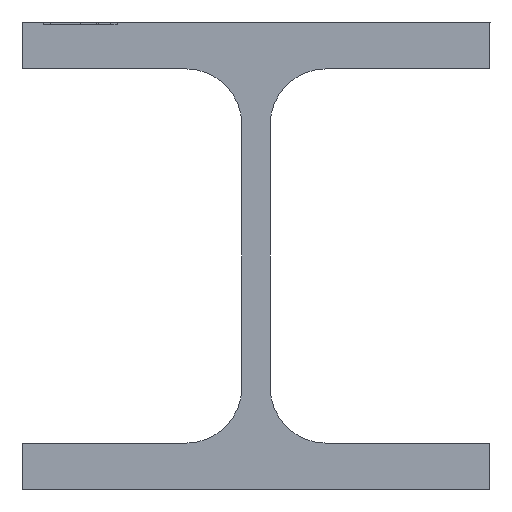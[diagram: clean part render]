
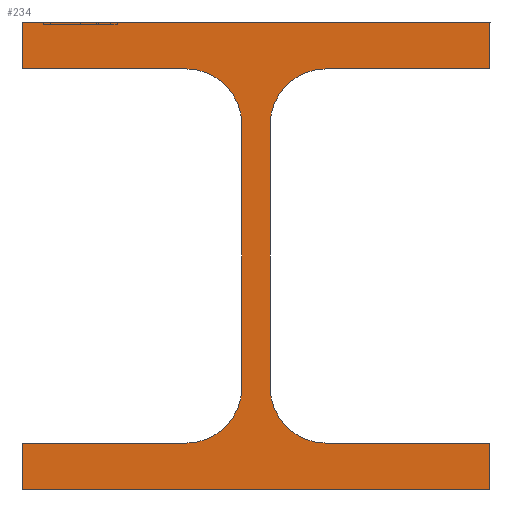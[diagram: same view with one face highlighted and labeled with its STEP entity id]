
A CAD part, left-side view. The second image highlights one B-rep face of the part: STEP entity #234.
In plain terms, the highlighted planar face has unit normal (-1, 0, 0).
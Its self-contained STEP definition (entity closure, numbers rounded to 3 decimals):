
#41 = VERTEX_POINT ( 'NONE', #532 ) ;
#42 = CARTESIAN_POINT ( 'NONE',  ( -55., 3687., 5092. ) ) ;
#59 = VECTOR ( 'NONE', #2269, 1000. ) ;
#63 = CARTESIAN_POINT ( 'NONE',  ( -55., 3675., 5160. ) ) ;
#78 = ORIENTED_EDGE ( 'NONE', *, *, #2561, .T. ) ;
#91 = ORIENTED_EDGE ( 'NONE', *, *, #2632, .T. ) ;
#92 = DIRECTION ( 'NONE',  ( 0., -1., 0. ) ) ;
#103 = ORIENTED_EDGE ( 'NONE', *, *, #1390, .T. ) ;
#119 = ORIENTED_EDGE ( 'NONE', *, *, #2197, .T. ) ;
#133 = EDGE_CURVE ( 'NONE', #1008, #2212, #2192, .T. ) ;
#137 = ORIENTED_EDGE ( 'NONE', *, *, #2266, .T. ) ;
#147 = CIRCLE ( 'NONE', #2456, 12. ) ;
#151 = AXIS2_PLACEMENT_3D ( 'NONE', #1856, #1648, #2498 ) ;
#152 = CARTESIAN_POINT ( 'NONE',  ( -55., 3740., 5170. ) ) ;
#168 = VERTEX_POINT ( 'NONE', #202 ) ;
#175 = DIRECTION ( 'NONE',  ( 0., 0., -1. ) ) ;
#180 = CARTESIAN_POINT ( 'NONE',  ( -55., 3705., 5080. ) ) ;
#202 = CARTESIAN_POINT ( 'NONE',  ( -55., 3693., 5092. ) ) ;
#218 = EDGE_CURVE ( 'NONE', #168, #1181, #147, .T. ) ;
#234 = ADVANCED_FACE ( 'NONE', ( #2157 ), #1744, .T. ) ;
#270 = CARTESIAN_POINT ( 'NONE',  ( -55., 3740., 5160. ) ) ;
#290 = DIRECTION ( 'NONE',  ( 1., 0., 0. ) ) ;
#298 = CARTESIAN_POINT ( 'NONE',  ( -55., 3640., 5070. ) ) ;
#312 = CARTESIAN_POINT ( 'NONE',  ( -55., 3640., 5170. ) ) ;
#363 = CARTESIAN_POINT ( 'NONE',  ( -55., 3705., 5160. ) ) ;
#377 = CARTESIAN_POINT ( 'NONE',  ( -55., 3640., 5080. ) ) ;
#378 = VECTOR ( 'NONE', #1550, 1000. ) ;
#390 = EDGE_CURVE ( 'NONE', #1275, #612, #1839, .T. ) ;
#406 = DIRECTION ( 'NONE',  ( 0., 0., -1. ) ) ;
#420 = VECTOR ( 'NONE', #92, 1000. ) ;
#436 = ORIENTED_EDGE ( 'NONE', *, *, #2247, .T. ) ;
#459 = VECTOR ( 'NONE', #2086, 1000. ) ;
#465 = AXIS2_PLACEMENT_3D ( 'NONE', #2128, #2624, #1096 ) ;
#467 = CARTESIAN_POINT ( 'NONE',  ( -55., 3705., 5080. ) ) ;
#482 = DIRECTION ( 'NONE',  ( -1., 0., 0. ) ) ;
#499 = ORIENTED_EDGE ( 'NONE', *, *, #623, .T. ) ;
#510 = EDGE_CURVE ( 'NONE', #1218, #41, #2562, .T. ) ;
#532 = CARTESIAN_POINT ( 'NONE',  ( -55., 3740., 5170. ) ) ;
#550 = CARTESIAN_POINT ( 'NONE',  ( -55., 3687., 5092. ) ) ;
#595 = DIRECTION ( 'NONE',  ( 0., 0., 1. ) ) ;
#607 = DIRECTION ( 'NONE',  ( 1., 0., 0. ) ) ;
#612 = VERTEX_POINT ( 'NONE', #2164 ) ;
#618 = VERTEX_POINT ( 'NONE', #270 ) ;
#623 = EDGE_CURVE ( 'NONE', #2451, #861, #1548, .T. ) ;
#712 = ORIENTED_EDGE ( 'NONE', *, *, #2066, .T. ) ;
#740 = EDGE_CURVE ( 'NONE', #1259, #1674, #1338, .T. ) ;
#794 = DIRECTION ( 'NONE',  ( 0., 0., 1. ) ) ;
#799 = CARTESIAN_POINT ( 'NONE',  ( -55., 3675., 5092. ) ) ;
#828 = ORIENTED_EDGE ( 'NONE', *, *, #2149, .T. ) ;
#851 = VECTOR ( 'NONE', #942, 1000. ) ;
#861 = VERTEX_POINT ( 'NONE', #1007 ) ;
#911 = ORIENTED_EDGE ( 'NONE', *, *, #510, .T. ) ;
#942 = DIRECTION ( 'NONE',  ( 0., 0., -1. ) ) ;
#956 = CARTESIAN_POINT ( 'NONE',  ( -55., 3640., 5160. ) ) ;
#994 = AXIS2_PLACEMENT_3D ( 'NONE', #799, #607, #595 ) ;
#1007 = CARTESIAN_POINT ( 'NONE',  ( -55., 3640., 5160. ) ) ;
#1008 = VERTEX_POINT ( 'NONE', #2166 ) ;
#1012 = LINE ( 'NONE', #1070, #2184 ) ;
#1038 = VECTOR ( 'NONE', #2441, 1000. ) ;
#1039 = DIRECTION ( 'NONE',  ( 0., -1., 0. ) ) ;
#1070 = CARTESIAN_POINT ( 'NONE',  ( -55., 3693., 5148. ) ) ;
#1071 = ORIENTED_EDGE ( 'NONE', *, *, #218, .T. ) ;
#1096 = DIRECTION ( 'NONE',  ( 0., 0., 1. ) ) ;
#1116 = CARTESIAN_POINT ( 'NONE',  ( -55., 3675., 5160. ) ) ;
#1134 = LINE ( 'NONE', #467, #378 ) ;
#1181 = VERTEX_POINT ( 'NONE', #180 ) ;
#1218 = VERTEX_POINT ( 'NONE', #312 ) ;
#1241 = CARTESIAN_POINT ( 'NONE',  ( -55., 3640., 5170. ) ) ;
#1259 = VERTEX_POINT ( 'NONE', #2359 ) ;
#1275 = VERTEX_POINT ( 'NONE', #42 ) ;
#1302 = VECTOR ( 'NONE', #794, 1000. ) ;
#1338 = LINE ( 'NONE', #298, #1525 ) ;
#1353 = CIRCLE ( 'NONE', #151, 12. ) ;
#1365 = LINE ( 'NONE', #956, #1038 ) ;
#1389 = ORIENTED_EDGE ( 'NONE', *, *, #740, .T. ) ;
#1390 = EDGE_CURVE ( 'NONE', #1566, #168, #1012, .T. ) ;
#1461 = LINE ( 'NONE', #2737, #1615 ) ;
#1489 = CARTESIAN_POINT ( 'NONE',  ( -55., 3740., 5070. ) ) ;
#1491 = CIRCLE ( 'NONE', #465, 12. ) ;
#1525 = VECTOR ( 'NONE', #1985, 1000. ) ;
#1548 = LINE ( 'NONE', #1116, #1612 ) ;
#1550 = DIRECTION ( 'NONE',  ( 0., 1., 0. ) ) ;
#1566 = VERTEX_POINT ( 'NONE', #2230 ) ;
#1612 = VECTOR ( 'NONE', #1961, 1000. ) ;
#1615 = VECTOR ( 'NONE', #1039, 1000. ) ;
#1648 = DIRECTION ( 'NONE',  ( 1., 0., 0. ) ) ;
#1674 = VERTEX_POINT ( 'NONE', #377 ) ;
#1675 = CARTESIAN_POINT ( 'NONE',  ( -55., 3640., 5080. ) ) ;
#1694 = VERTEX_POINT ( 'NONE', #363 ) ;
#1715 = CARTESIAN_POINT ( 'NONE',  ( -55., 3675., 5080. ) ) ;
#1737 = EDGE_LOOP ( 'NONE', ( #499, #712, #911, #828, #119, #78, #103, #1071, #91, #1907, #2506, #1389, #1749, #436, #2336, #137 ) ) ;
#1744 = PLANE ( 'NONE',  #2500 ) ;
#1749 = ORIENTED_EDGE ( 'NONE', *, *, #2165, .T. ) ;
#1833 = CIRCLE ( 'NONE', #994, 12. ) ;
#1839 = LINE ( 'NONE', #550, #1302 ) ;
#1856 = CARTESIAN_POINT ( 'NONE',  ( -55., 3675., 5148. ) ) ;
#1907 = ORIENTED_EDGE ( 'NONE', *, *, #133, .T. ) ;
#1961 = DIRECTION ( 'NONE',  ( 0., -1., 0. ) ) ;
#1985 = DIRECTION ( 'NONE',  ( 0., 0., 1. ) ) ;
#2009 = CARTESIAN_POINT ( 'NONE',  ( -55., 3740., 5070. ) ) ;
#2049 = EDGE_CURVE ( 'NONE', #2212, #1259, #2428, .T. ) ;
#2051 = LINE ( 'NONE', #152, #2596 ) ;
#2065 = LINE ( 'NONE', #1675, #59 ) ;
#2066 = EDGE_CURVE ( 'NONE', #861, #1218, #1365, .T. ) ;
#2086 = DIRECTION ( 'NONE',  ( 0., 1., 0. ) ) ;
#2128 = CARTESIAN_POINT ( 'NONE',  ( -55., 3705., 5148. ) ) ;
#2149 = EDGE_CURVE ( 'NONE', #41, #618, #2051, .T. ) ;
#2157 = FACE_OUTER_BOUND ( 'NONE', #1737, .T. ) ;
#2164 = CARTESIAN_POINT ( 'NONE',  ( -55., 3687., 5148. ) ) ;
#2165 = EDGE_CURVE ( 'NONE', #1674, #2736, #2065, .T. ) ;
#2166 = CARTESIAN_POINT ( 'NONE',  ( -55., 3740., 5080. ) ) ;
#2181 = DIRECTION ( 'NONE',  ( 0., 0., 1. ) ) ;
#2184 = VECTOR ( 'NONE', #406, 1000. ) ;
#2192 = LINE ( 'NONE', #2659, #851 ) ;
#2197 = EDGE_CURVE ( 'NONE', #618, #1694, #1461, .T. ) ;
#2208 = DIRECTION ( 'NONE',  ( 0., 0., 1. ) ) ;
#2212 = VERTEX_POINT ( 'NONE', #1489 ) ;
#2230 = CARTESIAN_POINT ( 'NONE',  ( -55., 3693., 5148. ) ) ;
#2247 = EDGE_CURVE ( 'NONE', #2736, #1275, #1833, .T. ) ;
#2266 = EDGE_CURVE ( 'NONE', #612, #2451, #1353, .T. ) ;
#2269 = DIRECTION ( 'NONE',  ( 0., 1., 0. ) ) ;
#2336 = ORIENTED_EDGE ( 'NONE', *, *, #390, .T. ) ;
#2359 = CARTESIAN_POINT ( 'NONE',  ( -55., 3640., 5070. ) ) ;
#2428 = LINE ( 'NONE', #2009, #420 ) ;
#2441 = DIRECTION ( 'NONE',  ( 0., 0., 1. ) ) ;
#2451 = VERTEX_POINT ( 'NONE', #63 ) ;
#2456 = AXIS2_PLACEMENT_3D ( 'NONE', #2639, #290, #2181 ) ;
#2498 = DIRECTION ( 'NONE',  ( 0., 0., 1. ) ) ;
#2500 = AXIS2_PLACEMENT_3D ( 'NONE', #2625, #482, #2208 ) ;
#2506 = ORIENTED_EDGE ( 'NONE', *, *, #2049, .T. ) ;
#2561 = EDGE_CURVE ( 'NONE', #1694, #1566, #1491, .T. ) ;
#2562 = LINE ( 'NONE', #1241, #459 ) ;
#2596 = VECTOR ( 'NONE', #175, 1000. ) ;
#2624 = DIRECTION ( 'NONE',  ( 1., 0., 0. ) ) ;
#2625 = CARTESIAN_POINT ( 'NONE',  ( -55., 2820., 5165. ) ) ;
#2632 = EDGE_CURVE ( 'NONE', #1181, #1008, #1134, .T. ) ;
#2639 = CARTESIAN_POINT ( 'NONE',  ( -55., 3705., 5092. ) ) ;
#2659 = CARTESIAN_POINT ( 'NONE',  ( -55., 3740., 5080. ) ) ;
#2736 = VERTEX_POINT ( 'NONE', #1715 ) ;
#2737 = CARTESIAN_POINT ( 'NONE',  ( -55., 3740., 5160. ) ) ;
